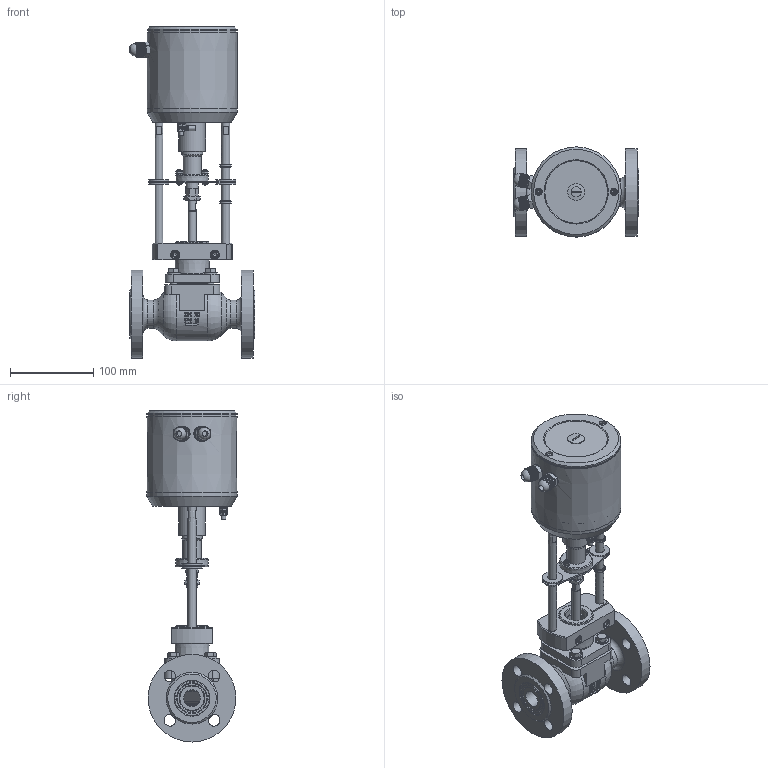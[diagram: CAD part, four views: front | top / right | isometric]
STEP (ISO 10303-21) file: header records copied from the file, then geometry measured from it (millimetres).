
FILE_DESCRIPTION(('STEP AP203'), '1');
FILE_NAME('ÊÏÑ-2 Äó 20 ñ ÝÏ-100-01', '', ('UNSPECIFIED'), ('UNSPECIFIED'), 'ASCON STEP Converter 1.3', 'ASCON Math Kernel', '');
FILE_SCHEMA(('CONFIG_CONTROL_DESIGN'));
Length unit declared in the file: millimetre
Bounding box: 150.44 x 108 x 397.92 mm (x, y, z)
Volume: 998358.1 mm3; surface area: 324113 mm2
Topology: 21 solids, 25 shells, 2007 faces, 5280 edges, 3467 vertices
Faces by surface type: cylinder 958, plane 812, cone 192, torus 31, sphere 5, revolution 4, bspline 4, extrusion 1
Full cylindrical faces by diameter (mm): 1.7 x2, 2 x2, 2.8 x2, 3.3 x2, 3.341 x3, 3.5 x4, 3.8 x2, 4 x6, 4.2 x2, 4.8 x2, 4.999 x6, 5 x14, 5.199 x3, 5.3 x3, 5.4 x3, 5.999 x3, 6 x6, 6.2 x2, 6.647 x6, 6.793 x2, 7 x4, 7.5 x1, 8 x7, 8.2 x2, 8.4 x6, 8.5 x2, 9.2 x4, 9.5 x1, 9.6 x2, 9.981 x1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
Entity records: 104958 total; most frequent: CARTESIAN_POINT 41360, ORIENTED_EDGE 9702, DIRECTION 9427, EDGE_CURVE 4851, AXIS2_PLACEMENT_3D 3716, VERTEX_POINT 3459, EDGE_LOOP 2668, COLOUR_RGB 2023
